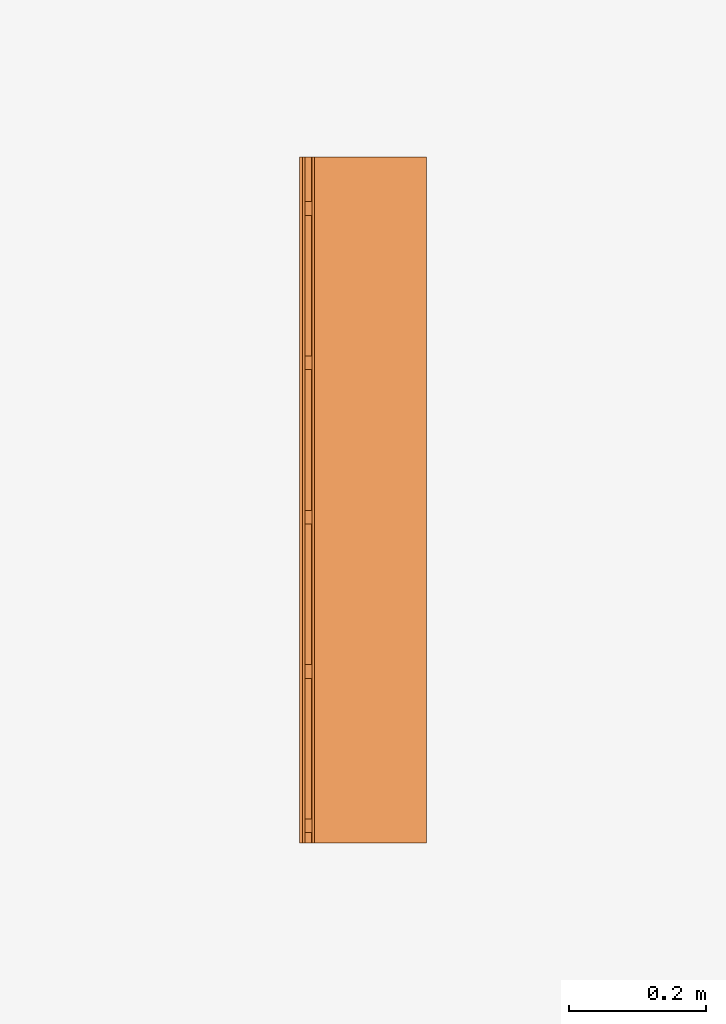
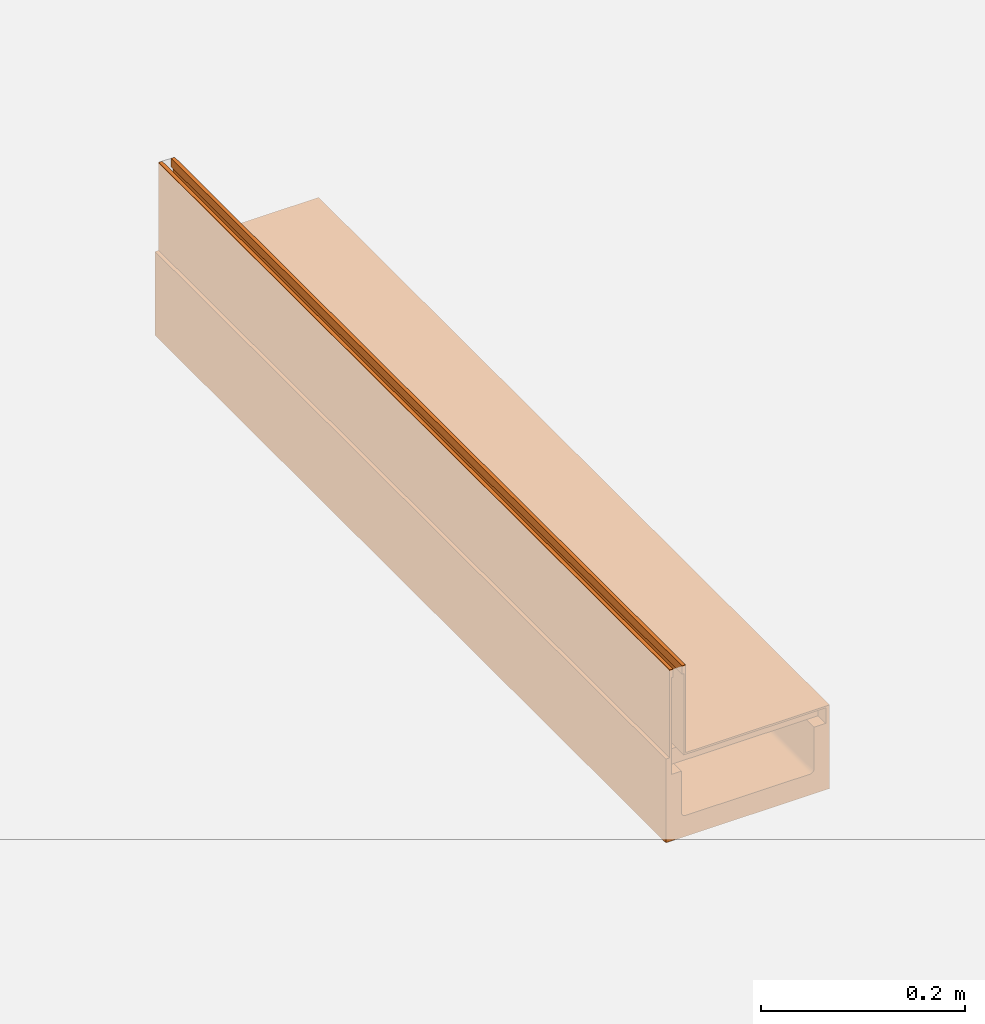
# One storey, part 2 of 2: 1 proxy, 1 opening.
"""IFC2X3 building model written with IfcOpenShell, lengths in millimetres."""

from ifc_helpers import new_model, entity, si_unit, converted_unit, direction, frame, frame_2d, origin, origin_2d_with_axis, place, context, subcontext, project, spatial, polyline, circle_curve, parameter, trimmed, segment, composite_curve, circle, outline, extrude, source, transform, mapped, material, material_list, element, save


model = new_model("IFC2X3")

# Units and contexts
model_context = context("Model", 3, precision=1e-06, world=origin(), true_north=direction((2.0, 6.12303176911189e-17, 1.0)))
context_of_model = context(None, 3, precision=1e-06, world=origin(), true_north=direction((2.0, 6.12303176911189e-17, 1.0)))
body_context = subcontext(model_context, "Body", "Model", "MODEL_VIEW")
ifc_project = project(units=[si_unit("LENGTHUNIT", "METRE", prefix="MILLI"), si_unit("AREAUNIT", "SQUARE_METRE", prefix="MILLI"), si_unit("VOLUMEUNIT", "CUBIC_METRE", prefix="MILLI"), converted_unit("PLANEANGLEUNIT", "DEGREE", entity("IfcRatioMeasure", 0.0174532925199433), si_unit("PLANEANGLEUNIT", "RADIAN"), dimensions=[0, 0, 0, 0, 0, 0, 0]), si_unit("TIMEUNIT", "SECOND")], contexts=[model_context, context_of_model])

# Site, building, storey
site_placement = place(None, origin())
site = spatial("IfcSite", under=ifc_project, at=site_placement, Name="Default", CompositionType="ELEMENT")
building_placement = place(site_placement, origin())
building = spatial("IfcBuilding", under=site, at=building_placement, CompositionType="ELEMENT")
storey_placement = place(building_placement, origin())
storey = spatial("IfcBuildingStorey", under=building, at=storey_placement, Name="Level 1", CompositionType="ELEMENT", Elevation=0.0)

# Proxy, opening
ifc_material_1 = material(Name="Stainless Steel (F)")
ifc_material_2 = material(Name="Plastic, Opaque Black")
ifc_material_3 = material(Name="Vienite® Synthetic Resin Concrete")
ifc_material_list = material_list([ifc_material_1, ifc_material_2, ifc_material_3])
shared_shape = source(origin(), body_context, "Body", "SweptSolid", [
    extrude(outline(polyline([(-9.24999999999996, -10.0), (9.25000000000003, -10.0), (9.25, 10.0), (-9.25000000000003, 10.0), (-9.24999999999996, -10.0)]), holes=[polyline([(7.25000000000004, -8.0), (-7.25, -8.0), (-7.25, 8.0), (7.24999999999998, 8.0), (7.25000000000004, -8.0)])]), frame((-86.2499999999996, 25.0, -116.249999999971), z_axis=(1.0, 0.0, 0.0), x_axis=(0.0, 0.0, -1.0)), (0.0, 0.0, 1.0), 174.5),
    extrude(outline(polyline([(-9.24999999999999, -10.0), (9.25000000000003, -10.0), (9.24999999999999, 10.0), (-9.25000000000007, 10.0), (-9.24999999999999, -10.0)]), holes=[polyline([(7.25000000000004, -8.0), (-7.25000000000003, -8.0), (-7.25000000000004, 8.0), (7.24999999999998, 8.0), (7.25000000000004, -8.0)])]), frame((-86.2499999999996, 250.0, -116.249999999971), z_axis=(1.0, 0.0, 0.0), x_axis=(0.0, 0.0, -1.0)), (0.0, 0.0, 1.0), 174.5),
    extrude(outline(polyline([(-9.24999999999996, -10.0), (9.25000000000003, -10.0), (9.24999999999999, 10.0), (-9.25000000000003, 10.0), (-9.24999999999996, -10.0)]), holes=[polyline([(7.25000000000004, -8.0), (-7.25000000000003, -8.0), (-7.25000000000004, 8.0), (7.24999999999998, 8.0), (7.25000000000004, -8.0)])]), frame((-86.2499999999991, 475.0, -116.249999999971), z_axis=(1.0, 0.0, 0.0), x_axis=(0.0, 0.0, -1.0)), (0.0, 0.0, 1.0), 174.5),
    extrude(outline(polyline([(-9.24999999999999, -10.0), (9.24999999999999, -10.0), (9.25000000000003, 10.0), (-9.24999999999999, 10.0), (-9.24999999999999, -10.0)]), holes=[polyline([(7.25000000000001, -8.0), (-7.25000000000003, -8.0), (-7.24999999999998, 8.0), (7.25000000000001, 8.0), (7.25000000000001, -8.0)])]), frame((-86.2499999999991, 700.0, -116.249999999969), z_axis=(1.0, 0.0, 0.0), x_axis=(0.0, 0.0, -1.0)), (0.0, 0.0, 1.0), 174.5),
    extrude(outline(polyline([(-9.25000000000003, -10.0), (9.24999999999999, -10.0), (9.25000000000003, 10.0), (-9.25000000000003, 10.0), (-9.25000000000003, -10.0)]), holes=[polyline([(7.25000000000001, -8.0), (-7.25000000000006, -8.0), (-7.25000000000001, 8.0), (7.25000000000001, 8.0), (7.25000000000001, -8.0)])]), frame((-86.2499999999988, 925.0, -116.249999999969), z_axis=(1.0, 0.0, 0.0), x_axis=(0.0, 0.0, -1.0)), (0.0, 0.0, 1.0), 174.5),
    extrude(outline(composite_curve([segment(trimmed(circle_curve(origin_2d_with_axis(), 69.0), [parameter(3.05333249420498e-13)], [parameter(180.0)], True, "PARAMETER"), True, "CONTINUOUS"), segment(trimmed(circle_curve(origin_2d_with_axis(), 69.0), [parameter(180.0)], [parameter(0.0)], True, "PARAMETER"), True, "CONTINUOUS")], self_intersect=False), holes=[composite_curve([segment(trimmed(circle_curve(origin_2d_with_axis(), 50.0), [parameter(180.0)], [parameter(360.0)], True, "PARAMETER"), False, "CONTINUOUS"), segment(trimmed(circle_curve(origin_2d_with_axis(), 50.0), [parameter(0.0)], [parameter(180.0)], True, "PARAMETER"), False, "CONTINUOUS")], self_intersect=False)]), frame((0.0, 900.0, -210.0), z_axis=(0.0, 0.0, 1.0), x_axis=(0.0, -1.0, 0.0)), (0.0, 0.0, 1.0), 30.0),
    extrude(outline(polyline([(45.5, -42.1250000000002), (55.5, -42.1250000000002), (55.5, -38.125), (-49.5, -38.125), (-49.5000000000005, 120.375), (-51.5000000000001, 120.375), (-51.4999999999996, -40.1250000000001), (45.5, -40.1250000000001), (45.5, -42.1250000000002)])), frame((-32.1250000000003, 0.0, -55.4999999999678), z_axis=(0.0, 1.0, 0.0), x_axis=(0.0, 0.0, 1.0)), (0.0, 0.0, 1.0), 1000.0),
    extrude(outline(polyline([(-80.3333333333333, -2.0), (45.1666666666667, -2.0), (45.1666666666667, 2.0), (35.1666666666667, 2.0), (35.1666666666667, 0.0), (-80.3333333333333, 0.0), (-80.3333333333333, -2.0)])), frame((-86.2500000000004, 0.0, -45.1666666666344), z_axis=(0.0, 1.0, 0.0), x_axis=(0.0, 0.0, 1.0)), (0.0, 0.0, 1.0), 1000.0),
    extrude(outline(composite_curve([segment(polyline([(-92.4999999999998, -40.857142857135), (-88.25, -40.857142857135)]), True, "CONTINUOUS"), segment(polyline([(-88.25, -40.857142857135), (-88.25, -20.357142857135)]), True, "CONTINUOUS"), segment(polyline([(-88.25, -20.357142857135), (-75.0, -20.357142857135)]), True, "CONTINUOUS"), segment(polyline([(-75.0, -20.357142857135), (-75.0, 29.1428571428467)]), True, "CONTINUOUS"), segment(trimmed(circle_curve(frame_2d((-70.0, 29.1428571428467), x_axis=(-1.0, 0.0)), 5.0), [parameter(270.0)], [parameter(4.07110999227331e-13)], True, "PARAMETER"), False, "CONTINUOUS"), segment(polyline([(-70.0, 34.1428571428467), (70.0, 34.1428571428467)]), True, "CONTINUOUS"), segment(trimmed(circle_curve(frame_2d((70.0, 29.1428571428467), x_axis=(-1.0, 0.0)), 5.0), [parameter(180.0)], [parameter(270.0)], True, "PARAMETER"), False, "CONTINUOUS"), segment(polyline([(75.0, 29.1428571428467), (75.0, -20.357142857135)]), True, "CONTINUOUS"), segment(polyline([(75.0, -20.357142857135), (88.25, -20.357142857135)]), True, "CONTINUOUS"), segment(polyline([(88.25, -20.357142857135), (88.25, -40.857142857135)]), True, "CONTINUOUS"), segment(polyline([(88.25, -40.857142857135), (92.5, -40.857142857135)]), True, "CONTINUOUS"), segment(polyline([(92.5, -40.857142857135), (92.5, 59.1428571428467)]), True, "CONTINUOUS"), segment(polyline([(92.5, 59.1428571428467), (-92.4999999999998, 59.1428571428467)]), True, "CONTINUOUS"), segment(polyline([(-92.4999999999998, 59.1428571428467), (-92.4999999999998, -40.857142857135)]), True, "CONTINUOUS")], self_intersect=False)), frame((0.0, 0.0, -145.857142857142), z_axis=(0.0, 1.0, 0.0), x_axis=(1.0, 0.0, 0.0)), (0.0, 0.0, 1.0), 1000.0),
])
proxy_placement = place(storey_placement, frame((0.0, -230.0, 0.0)))
proxy = element("IfcBuildingElementProxy", 1, at=proxy_placement, inside=storey, material=ifc_material_list, Name="Civil-Drainage-Channel-ACO-MultiDrain-M150DS-Brickslot-Channel-System:24157 - No 0100V - Shallow Depth Channel - 1000mm LG - Invert Depth 75mm:24157 - No 0100V - Shallow Depth Channel - 1000mm LG - Invert Depth 75mm", ObjectType="24157 - No 0100V - Shallow Depth Channel - 1000mm LG - Invert Depth 75mm", CompositionType="ELEMENT", context=body_context, shape_type="MappedRepresentation", body=[
    mapped(shared_shape, transform((0.0, 0.0, 0.0), scale=1.0)),
])
opening_placement = place(storey_placement, frame((0.0, -230.0, 0.0)))
element("IfcOpeningElement", 2, at=opening_placement, cuts=proxy, Name="Civil-Drainage-Channel-ACO-MultiDrain-M150DS-Brickslot-Channel-System:24157 - No 0100V - Shallow Depth Channel - 1000mm LG - Invert Depth 75mm:24157 - No 0100V - Shallow Depth Channel - 1000mm LG - Invert Depth 75mm:1", ObjectType="Opening", context=body_context, shape_type="SweptSolid", body=[
    extrude(circle(Radius=69.0, at=frame_2d((-2.50390777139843e-27, 8.12150346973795e-13), x_axis=(1.0, 0.0))), frame((0.0, 900.0, -205.0), z_axis=(0.0, 0.0, 1.0), x_axis=(-1.0, 0.0, 0.0)), (0.0, 0.0, 1.0), 25.0),
])

save(model, "model.ifc")
